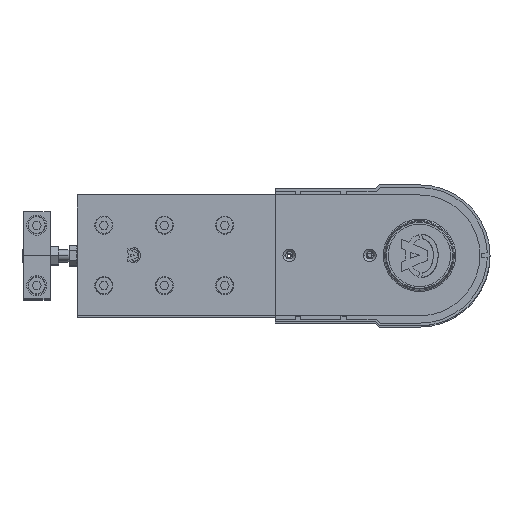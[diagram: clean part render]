
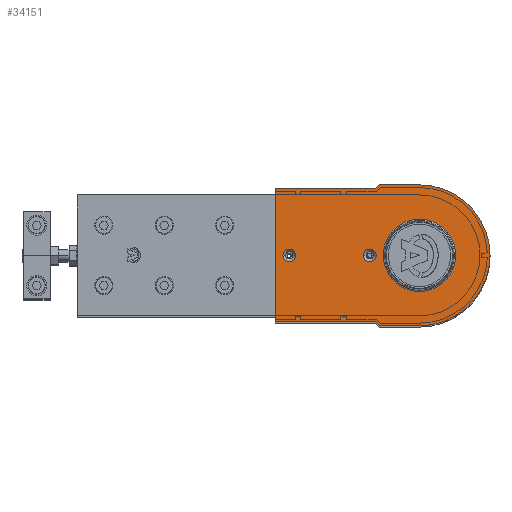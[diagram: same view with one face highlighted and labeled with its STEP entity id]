
A CAD part, top view. The second image highlights one B-rep face of the part: STEP entity #34151.
In plain terms, the highlighted planar face has unit normal (0, 0, 1).
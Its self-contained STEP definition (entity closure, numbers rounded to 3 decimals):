
#254 = DIRECTION ( 'NONE',  ( 0., 0., 1. ) ) ;
#596 = EDGE_CURVE ( 'NONE', #38246, #14904, #28569, .T. ) ;
#825 = EDGE_LOOP ( 'NONE', ( #44730, #18411 ) ) ;
#844 = DIRECTION ( 'NONE',  ( 1., 0., 0. ) ) ;
#865 = DIRECTION ( 'NONE',  ( 0.707, -0.707, 0. ) ) ;
#914 = CARTESIAN_POINT ( 'NONE',  ( -33., -49.5, 283. ) ) ;
#1080 = ORIENTED_EDGE ( 'NONE', *, *, #42956, .T. ) ;
#1438 = EDGE_LOOP ( 'NONE', ( #34486, #24504 ) ) ;
#1655 = EDGE_CURVE ( 'NONE', #29355, #8985, #43079, .T. ) ;
#1686 = CARTESIAN_POINT ( 'NONE',  ( -30., 52.5, 283. ) ) ;
#2384 = VERTEX_POINT ( 'NONE', #22798 ) ;
#3354 = VECTOR ( 'NONE', #27799, 1000. ) ;
#3623 = EDGE_CURVE ( 'NONE', #19489, #38246, #29825, .T. ) ;
#4874 = CARTESIAN_POINT ( 'NONE',  ( -32.3, 0., 283. ) ) ;
#4974 = LINE ( 'NONE', #31636, #17619 ) ;
#5650 = FACE_BOUND ( 'NONE', #825, .T. ) ;
#5861 = CARTESIAN_POINT ( 'NONE',  ( -37., 0., 283. ) ) ;
#5921 = AXIS2_PLACEMENT_3D ( 'NONE', #21138, #17286, #13416 ) ;
#5964 = CARTESIAN_POINT ( 'NONE',  ( -33., -49.5, 283. ) ) ;
#6291 = LINE ( 'NONE', #1686, #24307 ) ;
#6592 = CARTESIAN_POINT ( 'NONE',  ( -26.933, 0., 283. ) ) ;
#6647 = AXIS2_PLACEMENT_3D ( 'NONE', #19806, #19697, #19520 ) ;
#8042 = EDGE_CURVE ( 'NONE', #11866, #30732, #42548, .T. ) ;
#8985 = VERTEX_POINT ( 'NONE', #40803 ) ;
#9738 = DIRECTION ( 'NONE',  ( -1., 0., 0. ) ) ;
#10969 = DIRECTION ( 'NONE',  ( 0., 0., -1. ) ) ;
#11866 = VERTEX_POINT ( 'NONE', #4874 ) ;
#12878 = VERTEX_POINT ( 'NONE', #24169 ) ;
#13134 = DIRECTION ( 'NONE',  ( -1., 0., 0. ) ) ;
#13416 = DIRECTION ( 'NONE',  ( -1., 0., 0. ) ) ;
#13680 = ORIENTED_EDGE ( 'NONE', *, *, #29532, .T. ) ;
#14008 = EDGE_CURVE ( 'NONE', #27508, #34223, #18710, .T. ) ;
#14904 = VERTEX_POINT ( 'NONE', #34983 ) ;
#15298 = DIRECTION ( 'NONE',  ( 0., 0., 1. ) ) ;
#15988 = ORIENTED_EDGE ( 'NONE', *, *, #43251, .T. ) ;
#16741 = EDGE_CURVE ( 'NONE', #45212, #2384, #23346, .T. ) ;
#17286 = DIRECTION ( 'NONE',  ( 0., 0., 1. ) ) ;
#17400 = ORIENTED_EDGE ( 'NONE', *, *, #29645, .T. ) ;
#17619 = VECTOR ( 'NONE', #27942, 1000. ) ;
#17996 = AXIS2_PLACEMENT_3D ( 'NONE', #42567, #42518, #42514 ) ;
#18173 = ORIENTED_EDGE ( 'NONE', *, *, #49130, .T. ) ;
#18259 = CARTESIAN_POINT ( 'NONE',  ( -33., 49.5, 283. ) ) ;
#18411 = ORIENTED_EDGE ( 'NONE', *, *, #8042, .F. ) ;
#18414 = CARTESIAN_POINT ( 'NONE',  ( -107.5, 49.5, 283. ) ) ;
#18710 = CIRCLE ( 'NONE', #5921, 52.5 ) ;
#19028 = EDGE_CURVE ( 'NONE', #24275, #20752, #46453, .T. ) ;
#19252 = CARTESIAN_POINT ( 'NONE',  ( -107.5, -49.5, 283. ) ) ;
#19489 = VERTEX_POINT ( 'NONE', #19252 ) ;
#19520 = DIRECTION ( 'NONE',  ( -1., 0., 0. ) ) ;
#19697 = DIRECTION ( 'NONE',  ( 0., 0., 1. ) ) ;
#19806 = CARTESIAN_POINT ( 'NONE',  ( -37., 0., 283. ) ) ;
#19923 = CIRCLE ( 'NONE', #33800, 4.7 ) ;
#20490 = VECTOR ( 'NONE', #42415, 1000. ) ;
#20752 = VERTEX_POINT ( 'NONE', #18414 ) ;
#20890 = CARTESIAN_POINT ( 'NONE',  ( 0., -52.5, 283. ) ) ;
#21138 = CARTESIAN_POINT ( 'NONE',  ( 0., 0., 283. ) ) ;
#22175 = AXIS2_PLACEMENT_3D ( 'NONE', #26974, #254, #27126 ) ;
#22185 = EDGE_CURVE ( 'NONE', #2384, #45212, #19923, .T. ) ;
#22646 = DIRECTION ( 'NONE',  ( 1., 0., 0. ) ) ;
#22747 = CARTESIAN_POINT ( 'NONE',  ( -107.5, -49.5, 283. ) ) ;
#22798 = CARTESIAN_POINT ( 'NONE',  ( -92.3, 0., 283. ) ) ;
#23189 = CARTESIAN_POINT ( 'NONE',  ( -33., 49.5, 283. ) ) ;
#23346 = CIRCLE ( 'NONE', #39145, 4.7 ) ;
#24169 = CARTESIAN_POINT ( 'NONE',  ( -30., 52.5, 283. ) ) ;
#24275 = VERTEX_POINT ( 'NONE', #18259 ) ;
#24307 = VECTOR ( 'NONE', #13134, 1000. ) ;
#24504 = ORIENTED_EDGE ( 'NONE', *, *, #22185, .F. ) ;
#24826 = EDGE_LOOP ( 'NONE', ( #1080, #44590, #43496, #17400, #43907, #18173, #13680, #25378 ) ) ;
#24883 = FACE_BOUND ( 'NONE', #27267, .T. ) ;
#25378 = ORIENTED_EDGE ( 'NONE', *, *, #19028, .T. ) ;
#25539 = DIRECTION ( 'NONE',  ( -1., 0., 0. ) ) ;
#25595 = DIRECTION ( 'NONE',  ( 0., 0., 1. ) ) ;
#25649 = CARTESIAN_POINT ( 'NONE',  ( -97., 0., 283. ) ) ;
#26091 = FACE_BOUND ( 'NONE', #1438, .T. ) ;
#26589 = CARTESIAN_POINT ( 'NONE',  ( -41.7, 0., 283. ) ) ;
#26974 = CARTESIAN_POINT ( 'NONE',  ( 0., 0., 283. ) ) ;
#27053 = LINE ( 'NONE', #27717, #37279 ) ;
#27126 = DIRECTION ( 'NONE',  ( -1., 0., 0. ) ) ;
#27267 = EDGE_LOOP ( 'NONE', ( #48615, #15988 ) ) ;
#27508 = VERTEX_POINT ( 'NONE', #20890 ) ;
#27717 = CARTESIAN_POINT ( 'NONE',  ( -30., -52.5, 283. ) ) ;
#27799 = DIRECTION ( 'NONE',  ( -1., 0., 0. ) ) ;
#27942 = DIRECTION ( 'NONE',  ( 0., -1., 0. ) ) ;
#27959 = CARTESIAN_POINT ( 'NONE',  ( -107.5, 49.5, 283. ) ) ;
#28569 = LINE ( 'NONE', #914, #38773 ) ;
#29355 = VERTEX_POINT ( 'NONE', #6592 ) ;
#29532 = EDGE_CURVE ( 'NONE', #12878, #24275, #30668, .T. ) ;
#29645 = EDGE_CURVE ( 'NONE', #14904, #27508, #27053, .T. ) ;
#29825 = LINE ( 'NONE', #22747, #40015 ) ;
#30668 = LINE ( 'NONE', #23189, #20490 ) ;
#30732 = VERTEX_POINT ( 'NONE', #26589 ) ;
#31636 = CARTESIAN_POINT ( 'NONE',  ( -107.5, 49.5, 283. ) ) ;
#32730 = DIRECTION ( 'NONE',  ( 0., 0., 1. ) ) ;
#33800 = AXIS2_PLACEMENT_3D ( 'NONE', #38237, #15298, #42033 ) ;
#33955 = CARTESIAN_POINT ( 'NONE',  ( 0., 0., 283. ) ) ;
#34151 = ADVANCED_FACE ( 'NONE', ( #24883, #5650, #26091, #35108 ), #46115, .T. ) ;
#34223 = VERTEX_POINT ( 'NONE', #39036 ) ;
#34486 = ORIENTED_EDGE ( 'NONE', *, *, #16741, .F. ) ;
#34983 = CARTESIAN_POINT ( 'NONE',  ( -30., -52.5, 283. ) ) ;
#35108 = FACE_OUTER_BOUND ( 'NONE', #24826, .T. ) ;
#35715 = AXIS2_PLACEMENT_3D ( 'NONE', #33955, #10969, #37804 ) ;
#36613 = CARTESIAN_POINT ( 'NONE',  ( -101.7, 0., 283. ) ) ;
#37279 = VECTOR ( 'NONE', #844, 1000. ) ;
#37517 = EDGE_CURVE ( 'NONE', #30732, #11866, #38422, .T. ) ;
#37804 = DIRECTION ( 'NONE',  ( -1., 0., 0. ) ) ;
#38237 = CARTESIAN_POINT ( 'NONE',  ( -97., 0., 283. ) ) ;
#38246 = VERTEX_POINT ( 'NONE', #5964 ) ;
#38422 = CIRCLE ( 'NONE', #47251, 4.7 ) ;
#38773 = VECTOR ( 'NONE', #865, 1000. ) ;
#39036 = CARTESIAN_POINT ( 'NONE',  ( 0., 52.5, 283. ) ) ;
#39145 = AXIS2_PLACEMENT_3D ( 'NONE', #25649, #25595, #25539 ) ;
#40015 = VECTOR ( 'NONE', #22646, 1000. ) ;
#40803 = CARTESIAN_POINT ( 'NONE',  ( 26.933, 0., 283. ) ) ;
#41515 = CIRCLE ( 'NONE', #35715, 26.933 ) ;
#42033 = DIRECTION ( 'NONE',  ( -1., 0., 0. ) ) ;
#42415 = DIRECTION ( 'NONE',  ( -0.707, -0.707, 0. ) ) ;
#42514 = DIRECTION ( 'NONE',  ( -1., 0., 0. ) ) ;
#42518 = DIRECTION ( 'NONE',  ( 0., 0., -1. ) ) ;
#42548 = CIRCLE ( 'NONE', #6647, 4.7 ) ;
#42567 = CARTESIAN_POINT ( 'NONE',  ( 0., 0., 283. ) ) ;
#42956 = EDGE_CURVE ( 'NONE', #20752, #19489, #4974, .T. ) ;
#43079 = CIRCLE ( 'NONE', #17996, 26.933 ) ;
#43251 = EDGE_CURVE ( 'NONE', #8985, #29355, #41515, .T. ) ;
#43496 = ORIENTED_EDGE ( 'NONE', *, *, #596, .T. ) ;
#43907 = ORIENTED_EDGE ( 'NONE', *, *, #14008, .T. ) ;
#44590 = ORIENTED_EDGE ( 'NONE', *, *, #3623, .T. ) ;
#44730 = ORIENTED_EDGE ( 'NONE', *, *, #37517, .F. ) ;
#45212 = VERTEX_POINT ( 'NONE', #36613 ) ;
#46115 = PLANE ( 'NONE',  #22175 ) ;
#46453 = LINE ( 'NONE', #27959, #3354 ) ;
#47251 = AXIS2_PLACEMENT_3D ( 'NONE', #5861, #32730, #9738 ) ;
#48615 = ORIENTED_EDGE ( 'NONE', *, *, #1655, .T. ) ;
#49130 = EDGE_CURVE ( 'NONE', #34223, #12878, #6291, .T. ) ;
